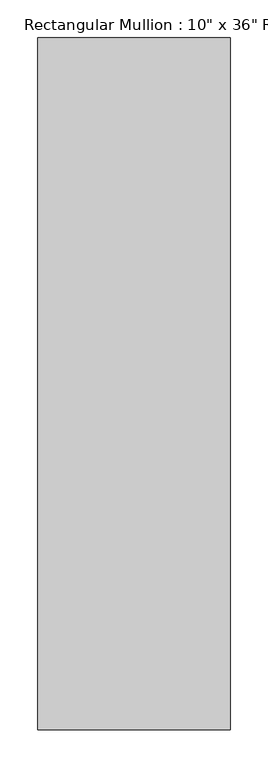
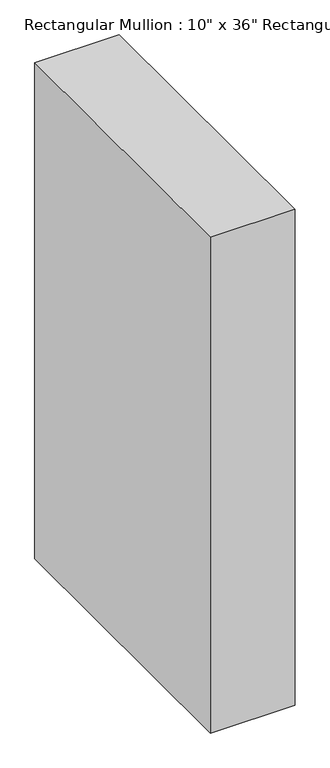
"""IFC4 building model written with IfcOpenShell, lengths in millimetres: member geometry."""

from ifc_helpers import new_model, si_unit, frame, origin, place, context, project, spatial, polyline, outline, extrude, source, transform, mapped, element, save


def member_1ca295fb(model_context):
    return source(origin(), model_context, "Body", "SweptSolid", [
        extrude(outline(polyline([(0.0, 850.9), (0.0, -63.5), (-254.0, -63.5), (-254.0, 850.9), (0.0, 850.9)])), frame((0.0, 0.0, -1574.8), z_axis=(0.0, 0.0, 1.0), x_axis=(1.0, 0.0, 0.0)), (0.0, 0.0, 1.0), 1574.8),
    ])


if __name__ == "__main__":
    model = new_model("IFC4")
    model_context = context("Model", 3, world=origin())
    ifc_project = project(units=[si_unit("LENGTHUNIT", "METRE", prefix="MILLI")], contexts=[model_context])
    site = spatial("IfcSite", under=ifc_project)
    building = spatial("IfcBuilding", under=site)
    placement = place(None, origin())
    member_shape = member_1ca295fb(model_context)
    element("IfcMember", 1, ObjectType="Rectangular Mullion : 10\" x 36\" Rectangular", at=placement, inside=building, context=model_context, shape_type="MappedRepresentation", body=[
        mapped(member_shape, transform((0.0, 0.0, 0.0), x_axis=(1.0, 0.0, 0.0), y_axis=(0.0, 1.0, 0.0), z_axis=(0.0, 0.0, 1.0))),
    ])
    save(model, "model.ifc")
